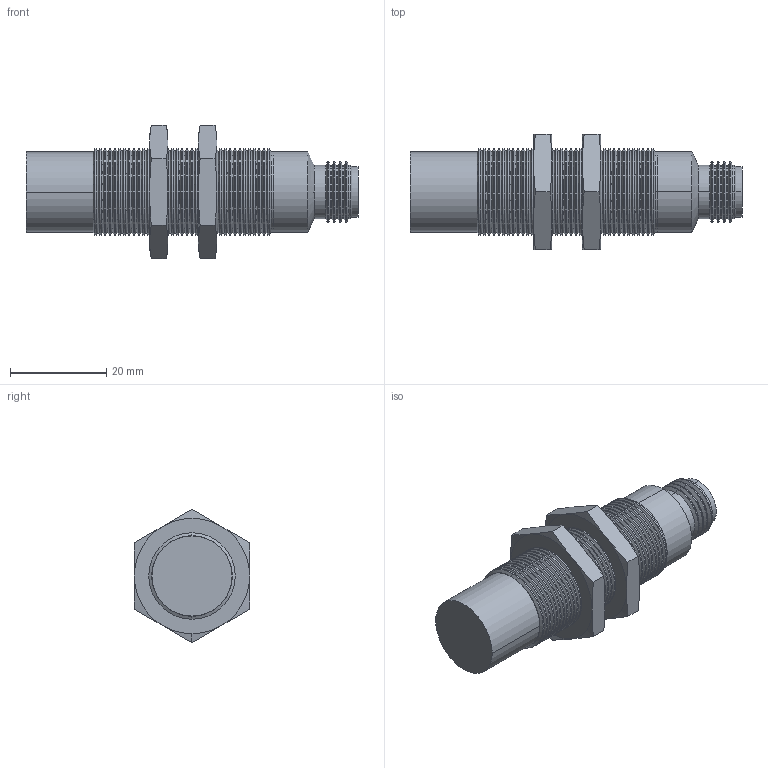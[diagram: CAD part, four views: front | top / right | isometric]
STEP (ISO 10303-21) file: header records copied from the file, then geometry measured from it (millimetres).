
FILE_DESCRIPTION (( 'STEP AP203' ), '1' );
FILE_NAME ('90-XXXX-024.STEP', '2015-08-31T03:22:59', ( 'Sam' ), ( 'Spade' ), 'SwSTEP 2.0', 'SolidWorks 2002296', '' );
FILE_SCHEMA (( 'CONFIG_CONTROL_DESIGN' ));
Length unit declared in the file: inch
Products named in the file (9): 90-XXXX-024; Imported136; Imported135; Imported141; Imported140; Imported139; Imported142; Imported138; Imported137
Assembly tree (8 placements, depth 2):
  90-XXXX-024
    Imported137
    Imported141
    Imported136
    Imported140
    Imported142
    Imported139
    Imported138
    Imported135
Bounding box: 69.04 x 23.98 x 27.69 mm (x, y, z)
Volume: 16442.3 mm3; surface area: 8931.3 mm2
Topology: 8 solids, 8 shells, 394 faces, 821 edges, 445 vertices
Faces by surface type: cone 232, cylinder 119, plane 37, bspline 6
Entity records: 11314 total; most frequent: DIRECTION 1981, CARTESIAN_POINT 1899, ORIENTED_EDGE 1630, AXIS2_PLACEMENT_3D 815, EDGE_CURVE 815, VERTEX_POINT 445, CIRCLE 416, EDGE_LOOP 406
